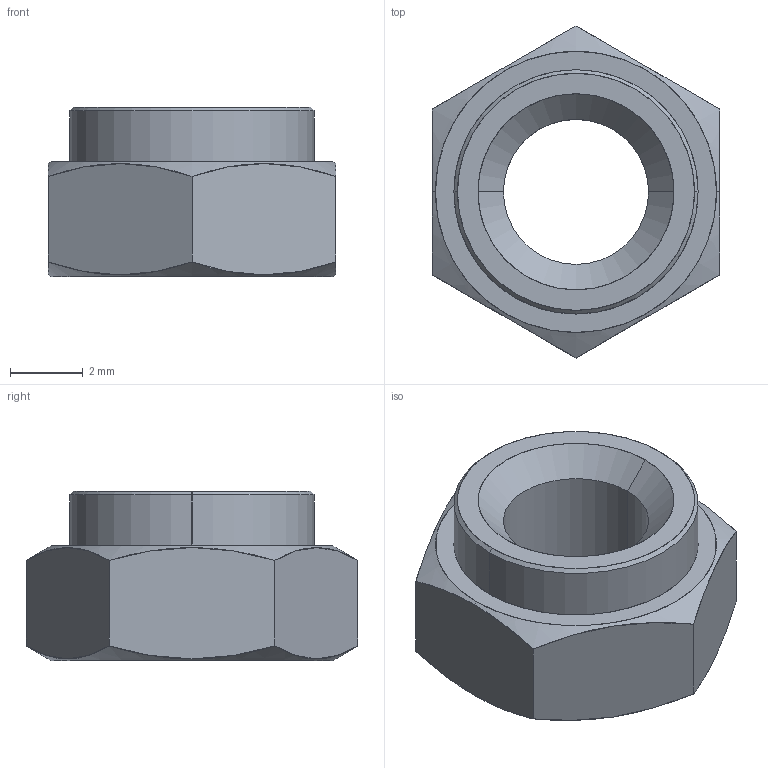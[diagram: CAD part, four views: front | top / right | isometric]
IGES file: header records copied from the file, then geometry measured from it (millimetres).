
Start section: SolidWorks IGES file using analytic representation for surfaces
Global section: file name: C:\Users\liam_\OneDrive\Desktop\Work\Mat Davis Pending 20181125\automotion\P SERIES\P0827.ZP_v2\P0827.ZP_v2_20181231_IGES\P0827.040-20G-ZP.igs; native system: SolidWorks 2017; preprocessor: SolidWorks 2017; author: liam_; date: 181231.110408; units: millimetre
Bounding box: 7.92 x 9.15 x 4.67 mm (x, y, z)
Surface area: 243.4 mm2 (no closed solid volume)
Topology: 0 solids, 0 shells, 23 faces, 376 edges, 376 vertices
Faces by surface type: revolution 14, bspline 9
